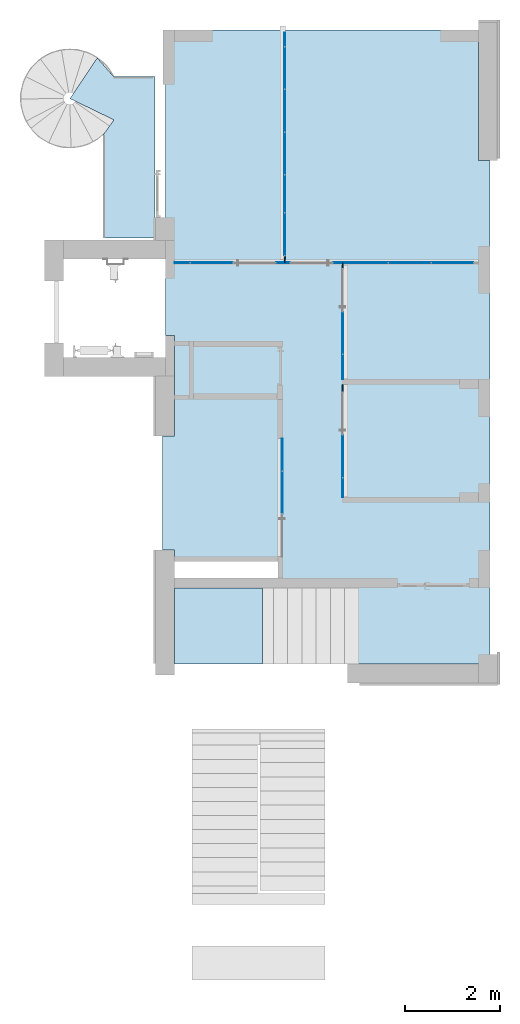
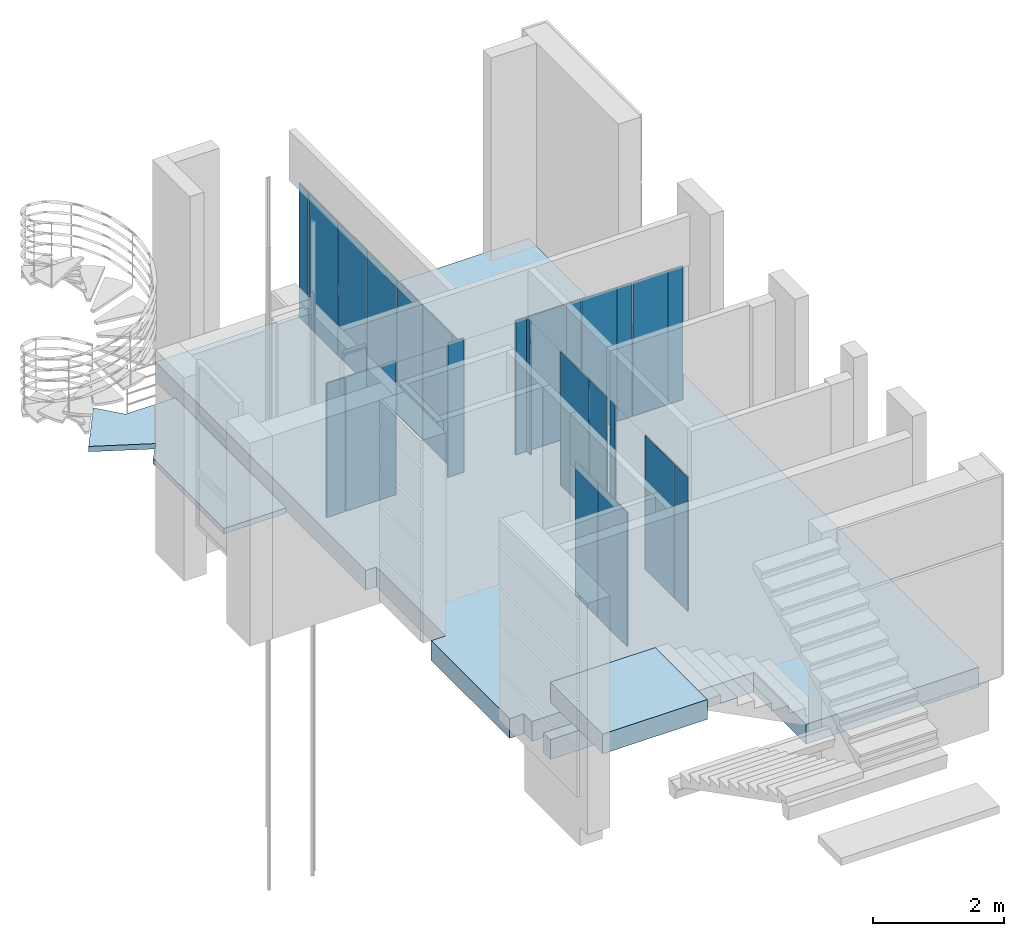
# One storey, part 4 of 14: 24 plates, 3 slabs, 5 elements without a shape of their own.
"""IFC2X3 building model written with IfcOpenShell, lengths in millimetres."""

from ifc_helpers import new_model, entity, si_unit, converted_unit, derived_unit, direction, frame, frame_2d, origin, origin_2d_with_axis, place, context, subcontext, project, spatial, polyline, rectangle, outline, extrude, source, transform, mapped, material, layer, layer_set, layer_usage, type_object, type_shapes, element, aggregate, save


model = new_model("IFC2X3")

# Units and contexts
model_context = context("Model", 3, precision=0.01, world=origin(), true_north=direction((6.12303176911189e-17, 1.0)))
body_context = subcontext(model_context, "Body", "Model", "MODEL_VIEW")
ifc_project = project(units=[si_unit("LENGTHUNIT", "METRE", prefix="MILLI"), si_unit("AREAUNIT", "SQUARE_METRE"), si_unit("VOLUMEUNIT", "CUBIC_METRE"), converted_unit("PLANEANGLEUNIT", "DEGREE", entity("IfcRatioMeasure", 0.0174532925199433), si_unit("PLANEANGLEUNIT", "RADIAN"), dimensions=[0, 0, 0, 0, 0, 0, 0]), si_unit("MASSUNIT", "GRAM", prefix="KILO"), derived_unit("MASSDENSITYUNIT", [(si_unit("MASSUNIT", "GRAM", prefix="KILO"), 1), (si_unit("LENGTHUNIT", "METRE"), -3)]), si_unit("TIMEUNIT", "SECOND"), si_unit("FREQUENCYUNIT", "HERTZ"), si_unit("THERMODYNAMICTEMPERATUREUNIT", "DEGREE_CELSIUS"), derived_unit("THERMALTRANSMITTANCEUNIT", [(si_unit("MASSUNIT", "GRAM", prefix="KILO"), 1), (si_unit("THERMODYNAMICTEMPERATUREUNIT", "KELVIN"), -1), (si_unit("TIMEUNIT", "SECOND"), -3)]), derived_unit("VOLUMETRICFLOWRATEUNIT", [(si_unit("LENGTHUNIT", "METRE"), 3), (si_unit("TIMEUNIT", "SECOND"), -1)]), si_unit("ELECTRICCURRENTUNIT", "AMPERE"), si_unit("ELECTRICVOLTAGEUNIT", "VOLT"), si_unit("POWERUNIT", "WATT"), si_unit("FORCEUNIT", "NEWTON", prefix="KILO"), si_unit("ILLUMINANCEUNIT", "LUX"), si_unit("LUMINOUSFLUXUNIT", "LUMEN"), si_unit("LUMINOUSINTENSITYUNIT", "CANDELA"), derived_unit("USERDEFINED", [(si_unit("MASSUNIT", "GRAM", prefix="KILO"), -1), (si_unit("LENGTHUNIT", "METRE"), -2), (si_unit("TIMEUNIT", "SECOND"), 3), (si_unit("LUMINOUSFLUXUNIT", "LUMEN"), 1)]), derived_unit("LINEARVELOCITYUNIT", [(si_unit("LENGTHUNIT", "METRE"), 1), (si_unit("TIMEUNIT", "SECOND"), -1)]), si_unit("PRESSUREUNIT", "PASCAL"), derived_unit("USERDEFINED", [(si_unit("LENGTHUNIT", "METRE"), -2), (si_unit("MASSUNIT", "GRAM", prefix="KILO"), 1), (si_unit("TIMEUNIT", "SECOND"), -2)])], contexts=[model_context])

# Site, building, storey
site_placement = place(None, frame((-151.875543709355, 2715.0, 0.0)))
site = spatial("IfcSite", under=ifc_project, at=site_placement, Name="Surface", CompositionType="ELEMENT")
building_placement = place(site_placement, origin())
building = spatial("IfcBuilding", under=site, at=building_placement, CompositionType="ELEMENT")
storey_placement = place(building_placement, frame((0.0, 0.0, 3875.0)))
storey = spatial("IfcBuildingStorey", under=building, at=storey_placement, Name="uus 2 korrus", CompositionType="ELEMENT", Elevation=3875.00000000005)

# Curtain wall, plates
curtain_wall_type_1 = type_object("IfcCurtainWallType", Name="Curtain Wall:Klaassein KLS-15", PredefinedType="NOTDEFINED")
curtain_wall_1_placement = place(storey_placement, frame((0.0, 0.0, -3875.0)))
curtain_wall_1 = element("IfcCurtainWall", 1, at=curtain_wall_1_placement, inside=storey, type_object=curtain_wall_type_1, Name="Curtain Wall:Klaassein KLS-15", ObjectType="Curtain Wall:Klaassein KLS-15")
ifc_material_1 = material(Name="<Unnamed>")
ifc_layer_1 = layer(ifc_material_1, 20.0)
ifc_layer_set_1 = layer_set([ifc_layer_1], Name="Curtain Wall:Klaassein KLS-01")
ifc_layer_usage_1 = layer_usage(ifc_layer_set_1, "AXIS3", "POSITIVE", 0.0)
plate_type_1 = type_object("IfcPlateType", Name="Glazed", PredefinedType="CURTAIN_PANEL", material=ifc_layer_set_1)
shared_shape_1 = source(origin(), body_context, "Body", "SweptSolid", [
    extrude(rectangle(XDim=20.0, YDim=319.699929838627, at=origin_2d_with_axis()), frame((0.0, 0.0, 0.0), z_axis=(0.0, 0.0, 1.0), x_axis=(0.0, 1.0, 0.0)), (0.0, 0.0, 1.0), 2500.00000000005),
])
type_shapes(plate_type_1, [shared_shape_1])
plate_1_placement = place(curtain_wall_1_placement, frame((32161.4662331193, 21659.9585633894, 3875.0)))
plate_1 = element("IfcPlate", 2, at=plate_1_placement, type_object=plate_type_1, material=ifc_layer_usage_1, Name="System Panel:Glazed", ObjectType="Glazed", context=body_context, shape_type="MappedRepresentation", body=[
    mapped(shared_shape_1, transform((0.0, 0.0, 0.0), scale=1.0)),
])
ifc_layer_usage_2 = layer_usage(ifc_layer_set_1, "AXIS3", "POSITIVE", 0.0)
plate_type_2 = type_object("IfcPlateType", Name="Glazed", PredefinedType="CURTAIN_PANEL", material=ifc_layer_set_1)
shared_shape_2 = source(origin(), body_context, "Body", "SweptSolid", [
    extrude(rectangle(XDim=20.0, YDim=879.999999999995, at=origin_2d_with_axis()), frame((0.0, 0.0, 0.0), z_axis=(0.0, 0.0, 1.0), x_axis=(0.0, 1.0, 0.0)), (0.0, 0.0, 1.0), 2500.00000000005),
])
type_shapes(plate_type_2, [shared_shape_2])
plate_2_placement = place(curtain_wall_1_placement, frame((32781.3161980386, 21659.9585633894, 3875.0)))
plate_2 = element("IfcPlate", 3, at=plate_2_placement, type_object=plate_type_2, material=ifc_layer_usage_2, Name="System Panel:Glazed", ObjectType="Glazed", context=body_context, shape_type="MappedRepresentation", body=[
    mapped(shared_shape_2, transform((0.0, 0.0, 0.0), scale=1.0)),
])

curtain_wall_type_2 = type_object("IfcCurtainWallType", Name="Curtain Wall:Klaassein KLS-16", PredefinedType="NOTDEFINED")
curtain_wall_2_placement = place(storey_placement, frame((0.0, 0.0, -3875.0)))
curtain_wall_2 = element("IfcCurtainWall", 4, at=curtain_wall_2_placement, inside=storey, type_object=curtain_wall_type_2, Name="Curtain Wall:Klaassein KLS-16", ObjectType="Curtain Wall:Klaassein KLS-16")
ifc_layer_usage_3 = layer_usage(ifc_layer_set_1, "AXIS3", "POSITIVE", 0.0)
plate_3_placement = place(curtain_wall_2_placement, frame((34321.3161980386, 25760.0, 3875.0), z_axis=(0.0, 0.0, 1.0), x_axis=(0.0, -1.0, 0.0)))
plate_3 = element("IfcPlate", 5, at=plate_3_placement, type_object=plate_type_2, material=ifc_layer_usage_3, Name="System Panel:Glazed", ObjectType="Glazed", context=body_context, shape_type="MappedRepresentation", body=[
    mapped(shared_shape_2, transform((0.0, 0.0, 0.0), scale=1.0)),
])
ifc_layer_usage_4 = layer_usage(ifc_layer_set_1, "AXIS3", "POSITIVE", 0.0)
plate_4_placement = place(curtain_wall_2_placement, frame((34321.3161980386, 24860.0, 3875.0), z_axis=(0.0, 0.0, 1.0), x_axis=(0.0, -1.0, 0.0)))
plate_4 = element("IfcPlate", 6, at=plate_4_placement, type_object=plate_type_2, material=ifc_layer_usage_4, Name="System Panel:Glazed", ObjectType="Glazed", context=body_context, shape_type="MappedRepresentation", body=[
    mapped(shared_shape_2, transform((0.0, 0.0, 0.0), scale=1.0)),
])
ifc_layer_usage_5 = layer_usage(ifc_layer_set_1, "AXIS3", "POSITIVE", 0.0)
plate_5_placement = place(curtain_wall_2_placement, frame((34321.3161980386, 23960.0, 3875.0), z_axis=(0.0, 0.0, 1.0), x_axis=(0.0, -1.0, 0.0)))
plate_5 = element("IfcPlate", 7, at=plate_5_placement, type_object=plate_type_2, material=ifc_layer_usage_5, Name="System Panel:Glazed", ObjectType="Glazed", context=body_context, shape_type="MappedRepresentation", body=[
    mapped(shared_shape_2, transform((0.0, 0.0, 0.0), scale=1.0)),
])
ifc_layer_usage_6 = layer_usage(ifc_layer_set_1, "AXIS3", "POSITIVE", 0.0)
plate_6_placement = place(curtain_wall_2_placement, frame((34321.3161980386, 22260.0, 3875.0), z_axis=(0.0, 0.0, 1.0), x_axis=(0.0, -1.0, 0.0)))
plate_6 = element("IfcPlate", 8, at=plate_6_placement, type_object=plate_type_2, material=ifc_layer_usage_6, Name="System Panel:Glazed", ObjectType="Glazed", context=body_context, shape_type="MappedRepresentation", body=[
    mapped(shared_shape_2, transform((0.0, 0.0, 0.0), scale=1.0)),
])

# Curtain wall, plate
curtain_wall_type_3 = type_object("IfcCurtainWallType", Name="Curtain Wall:Klaassein KLS-14", PredefinedType="NOTDEFINED")
curtain_wall_3_placement = place(storey_placement, frame((0.0, 0.0, -3875.0)))
curtain_wall_3 = element("IfcCurtainWall", 9, at=curtain_wall_3_placement, inside=storey, type_object=curtain_wall_type_3, Name="Curtain Wall:Klaassein KLS-14", ObjectType="Curtain Wall:Klaassein KLS-14")
ifc_layer_usage_7 = layer_usage(ifc_layer_set_1, "AXIS3", "POSITIVE", 0.0)
plate_7_placement = place(curtain_wall_3_placement, frame((35541.6162681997, 20180.2792834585, 3875.0), z_axis=(0.0, 0.0, 1.0), x_axis=(0.0, -1.0, 0.0)))
plate_7 = element("IfcPlate", 10, at=plate_7_placement, type_object=plate_type_2, material=ifc_layer_usage_7, Name="System Panel:Glazed", ObjectType="Glazed", context=body_context, shape_type="MappedRepresentation", body=[
    mapped(shared_shape_2, transform((0.0, 0.0, 0.0), scale=1.0)),
])

curtain_wall_type_4 = type_object("IfcCurtainWallType", Name="Curtain Wall:Klaassein KLS-13", PredefinedType="NOTDEFINED")
curtain_wall_4_placement = place(storey_placement, frame((0.0, 0.0, -3875.0)))
curtain_wall_4 = element("IfcCurtainWall", 11, at=curtain_wall_4_placement, inside=storey, type_object=curtain_wall_type_4, Name="Curtain Wall:Klaassein KLS-13", ObjectType="Curtain Wall:Klaassein KLS-13")
ifc_layer_usage_8 = layer_usage(ifc_layer_set_1, "AXIS3", "POSITIVE", 0.0)
plate_8_placement = place(curtain_wall_4_placement, frame((35540.8324752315, 17584.0897464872, 3875.0), z_axis=(0.0, 0.0, 1.0), x_axis=(0.0, -1.0, 0.0)))
plate_8 = element("IfcPlate", 12, at=plate_8_placement, type_object=plate_type_2, material=ifc_layer_usage_8, Name="System Panel:Glazed", ObjectType="Glazed", context=body_context, shape_type="MappedRepresentation", body=[
    mapped(shared_shape_2, transform((0.0, 0.0, 0.0), scale=1.0)),
])

# Plate
ifc_layer_usage_9 = layer_usage(ifc_layer_set_1, "AXIS3", "POSITIVE", 0.0)
plate_type_3 = type_object("IfcPlateType", Name="Glazed", PredefinedType="CURTAIN_PANEL", material=ifc_layer_set_1)
shared_shape_3 = source(origin(), body_context, "Body", "SweptSolid", [
    extrude(rectangle(XDim=20.0, YDim=279.999999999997, at=origin_2d_with_axis()), frame((0.0, 0.0, 0.0), z_axis=(0.0, 0.0, 1.0), x_axis=(0.0, 1.0, 0.0)), (0.0, 0.0, 1.0), 2500.00000000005),
])
type_shapes(plate_type_3, [shared_shape_3])
plate_9_placement = place(curtain_wall_1_placement, frame((34281.3161980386, 21659.9585633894, 3875.0)))
plate_9 = element("IfcPlate", 13, at=plate_9_placement, type_object=plate_type_3, material=ifc_layer_usage_9, Name="System Panel:Glazed", ObjectType="Glazed", context=body_context, shape_type="MappedRepresentation", body=[
    mapped(shared_shape_3, transform((0.0, 0.0, 0.0), scale=1.0)),
])

ifc_layer_usage_10 = layer_usage(ifc_layer_set_1, "AXIS3", "POSITIVE", 0.0)
plate_type_4 = type_object("IfcPlateType", Name="Glazed", PredefinedType="CURTAIN_PANEL", material=ifc_layer_set_1)
shared_shape_4 = source(origin(), body_context, "Body", "SweptSolid", [
    extrude(rectangle(XDim=20.0, YDim=889.999999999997, at=origin_2d_with_axis()), frame((0.0, 0.0, 0.0), z_axis=(0.0, 0.0, 1.0), x_axis=(0.0, 1.0, 0.0)), (0.0, 0.0, 1.0), 2500.00000000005),
])
type_shapes(plate_type_4, [shared_shape_4])
plate_10_placement = place(curtain_wall_1_placement, frame((35786.3161980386, 21659.9585633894, 3875.0)))
plate_10 = element("IfcPlate", 14, at=plate_10_placement, type_object=plate_type_4, material=ifc_layer_usage_10, Name="System Panel:Glazed", ObjectType="Glazed", context=body_context, shape_type="MappedRepresentation", body=[
    mapped(shared_shape_4, transform((0.0, 0.0, 0.0), scale=1.0)),
])

ifc_layer_usage_11 = layer_usage(ifc_layer_set_1, "AXIS3", "POSITIVE", 0.0)
plate_type_5 = type_object("IfcPlateType", Name="Glazed", PredefinedType="CURTAIN_PANEL", material=ifc_layer_set_1)
shared_shape_5 = source(origin(), body_context, "Body", "SweptSolid", [
    extrude(rectangle(XDim=20.0, YDim=260.300070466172, at=origin_2d_with_axis()), frame((0.0, 0.0, 0.0), z_axis=(0.0, 0.0, 1.0), x_axis=(0.0, 1.0, 0.0)), (0.0, 0.0, 1.0), 2500.00000000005),
])
type_shapes(plate_type_5, [shared_shape_5])
plate_11_placement = place(curtain_wall_1_placement, frame((36361.4662332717, 21659.9585633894, 3875.0)))
plate_11 = element("IfcPlate", 15, at=plate_11_placement, type_object=plate_type_5, material=ifc_layer_usage_11, Name="System Panel:Glazed", ObjectType="Glazed", context=body_context, shape_type="MappedRepresentation", body=[
    mapped(shared_shape_5, transform((0.0, 0.0, 0.0), scale=1.0)),
])

ifc_layer_usage_12 = layer_usage(ifc_layer_set_1, "AXIS3", "POSITIVE", 0.0)
plate_12_placement = place(curtain_wall_1_placement, frame((37261.4662332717, 21659.9585633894, 3875.0)))
plate_12 = element("IfcPlate", 16, at=plate_12_placement, type_object=plate_type_5, material=ifc_layer_usage_12, Name="System Panel:Glazed", ObjectType="Glazed", context=body_context, shape_type="MappedRepresentation", body=[
    mapped(shared_shape_5, transform((0.0, 0.0, 0.0), scale=1.0)),
])

ifc_layer_usage_13 = layer_usage(ifc_layer_set_1, "AXIS3", "POSITIVE", 0.0)
plate_13_placement = place(curtain_wall_1_placement, frame((38161.4662332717, 21659.9585633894, 3875.0)))
plate_13 = element("IfcPlate", 17, at=plate_13_placement, type_object=plate_type_5, material=ifc_layer_usage_13, Name="System Panel:Glazed", ObjectType="Glazed", context=body_context, shape_type="MappedRepresentation", body=[
    mapped(shared_shape_5, transform((0.0, 0.0, 0.0), scale=1.0)),
])

ifc_layer_usage_14 = layer_usage(ifc_layer_set_1, "AXIS3", "POSITIVE", 0.0)
plate_type_6 = type_object("IfcPlateType", Name="Glazed", PredefinedType="CURTAIN_PANEL", material=ifc_layer_set_1)
shared_shape_6 = source(origin(), body_context, "Body", "SweptSolid", [
    extrude(rectangle(XDim=20.0, YDim=619.699929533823, at=origin_2d_with_axis()), frame((0.0, 0.0, 0.0), z_axis=(0.0, 0.0, 1.0), x_axis=(0.0, 1.0, 0.0)), (0.0, 0.0, 1.0), 2500.00000000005),
])
type_shapes(plate_type_6, [shared_shape_6])
plate_14_placement = place(curtain_wall_1_placement, frame((36821.4662332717, 21659.9585633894, 3875.0)))
plate_14 = element("IfcPlate", 18, at=plate_14_placement, type_object=plate_type_6, material=ifc_layer_usage_14, Name="System Panel:Glazed", ObjectType="Glazed", context=body_context, shape_type="MappedRepresentation", body=[
    mapped(shared_shape_6, transform((0.0, 0.0, 0.0), scale=1.0)),
])

ifc_layer_usage_15 = layer_usage(ifc_layer_set_1, "AXIS3", "POSITIVE", 0.0)
plate_15_placement = place(curtain_wall_1_placement, frame((37721.4662332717, 21659.9585633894, 3875.0)))
plate_15 = element("IfcPlate", 19, at=plate_15_placement, type_object=plate_type_6, material=ifc_layer_usage_15, Name="System Panel:Glazed", ObjectType="Glazed", context=body_context, shape_type="MappedRepresentation", body=[
    mapped(shared_shape_6, transform((0.0, 0.0, 0.0), scale=1.0)),
])

aggregate(curtain_wall_1, [plate_1, plate_2, plate_9, plate_10, plate_11, plate_14, plate_12, plate_15, plate_13])

ifc_layer_usage_16 = layer_usage(ifc_layer_set_1, "AXIS3", "POSITIVE", 0.0)
plate_type_7 = type_object("IfcPlateType", Name="Glazed", PredefinedType="CURTAIN_PANEL", material=ifc_layer_set_1)
shared_shape_7 = source(origin(), body_context, "Body", "SweptSolid", [
    extrude(rectangle(XDim=20.0, YDim=281.000026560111, at=origin_2d_with_axis()), frame((0.0, 0.0, 0.0), z_axis=(0.0, 0.0, 1.0), x_axis=(0.0, 1.0, 0.0)), (0.0, 0.0, 1.0), 2500.00000000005),
])
type_shapes(plate_type_7, [shared_shape_7])
plate_16_placement = place(curtain_wall_2_placement, frame((34321.3161980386, 26360.50001328, 3875.0), z_axis=(0.0, 0.0, 1.0), x_axis=(0.0, -1.0, 0.0)))
plate_16 = element("IfcPlate", 20, at=plate_16_placement, type_object=plate_type_7, material=ifc_layer_usage_16, Name="System Panel:Glazed", ObjectType="Glazed", context=body_context, shape_type="MappedRepresentation", body=[
    mapped(shared_shape_7, transform((0.0, 0.0, 0.0), scale=1.0)),
])

ifc_layer_usage_17 = layer_usage(ifc_layer_set_1, "AXIS3", "POSITIVE", 0.0)
plate_type_8 = type_object("IfcPlateType", Name="Glazed", PredefinedType="CURTAIN_PANEL", material=ifc_layer_set_1)
shared_shape_8 = source(origin(), body_context, "Body", "SweptSolid", [
    extrude(rectangle(XDim=20.0, YDim=779.999999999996, at=origin_2d_with_axis()), frame((0.0, 0.0, 0.0), z_axis=(0.0, 0.0, 1.0), x_axis=(0.0, 1.0, 0.0)), (0.0, 0.0, 1.0), 2500.00000000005),
])
type_shapes(plate_type_8, [shared_shape_8])
plate_17_placement = place(curtain_wall_2_placement, frame((34321.3161980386, 23110.0, 3875.0), z_axis=(0.0, 0.0, 1.0), x_axis=(0.0, -1.0, 0.0)))
plate_17 = element("IfcPlate", 21, at=plate_17_placement, type_object=plate_type_8, material=ifc_layer_usage_17, Name="System Panel:Glazed", ObjectType="Glazed", context=body_context, shape_type="MappedRepresentation", body=[
    mapped(shared_shape_8, transform((0.0, 0.0, 0.0), scale=1.0)),
])

ifc_layer_usage_18 = layer_usage(ifc_layer_set_1, "AXIS3", "POSITIVE", 0.0)
plate_type_9 = type_object("IfcPlateType", Name="Glazed", PredefinedType="CURTAIN_PANEL", material=ifc_layer_set_1)
shared_shape_9 = source(origin(), body_context, "Body", "SweptSolid", [
    extrude(rectangle(XDim=20.0, YDim=140.04143661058, at=origin_2d_with_axis()), frame((0.0, 0.0, 0.0), z_axis=(0.0, 0.0, 1.0), x_axis=(0.0, 1.0, 0.0)), (0.0, 0.0, 1.0), 2500.00000000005),
])
type_shapes(plate_type_9, [shared_shape_9])
plate_18_placement = place(curtain_wall_2_placement, frame((34321.3161980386, 21729.9792816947, 3875.0), z_axis=(0.0, 0.0, 1.0), x_axis=(0.0, -1.0, 0.0)))
plate_18 = element("IfcPlate", 22, at=plate_18_placement, type_object=plate_type_9, material=ifc_layer_usage_18, Name="System Panel:Glazed", ObjectType="Glazed", context=body_context, shape_type="MappedRepresentation", body=[
    mapped(shared_shape_9, transform((0.0, 0.0, 0.0), scale=1.0)),
])

aggregate(curtain_wall_2, [plate_16, plate_3, plate_4, plate_5, plate_17, plate_6, plate_18])

ifc_layer_usage_19 = layer_usage(ifc_layer_set_1, "AXIS3", "POSITIVE", 0.0)
plate_type_10 = type_object("IfcPlateType", Name="Glazed", PredefinedType="CURTAIN_PANEL", material=ifc_layer_set_1)
shared_shape_10 = source(origin(), body_context, "Body", "SweptSolid", [
    extrude(rectangle(XDim=20.0, YDim=119.679279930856, at=origin_2d_with_axis()), frame((0.0, 0.0, 0.0), z_axis=(0.0, 0.0, 1.0), x_axis=(0.0, 1.0, 0.0)), (0.0, 0.0, 1.0), 2500.00000000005),
])
type_shapes(plate_type_10, [shared_shape_10])
plate_19_placement = place(curtain_wall_3_placement, frame((35541.6162681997, 21600.1189234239, 3875.0), z_axis=(0.0, 0.0, 1.0), x_axis=(0.0, -1.0, 0.0)))
plate_19 = element("IfcPlate", 23, at=plate_19_placement, type_object=plate_type_10, material=ifc_layer_usage_19, Name="System Panel:Glazed", ObjectType="Glazed", context=body_context, shape_type="MappedRepresentation", body=[
    mapped(shared_shape_10, transform((0.0, 0.0, 0.0), scale=1.0)),
])

ifc_layer_usage_20 = layer_usage(ifc_layer_set_1, "AXIS3", "POSITIVE", 0.0)
plate_type_11 = type_object("IfcPlateType", Name="Glazed", PredefinedType="CURTAIN_PANEL", material=ifc_layer_set_1)
shared_shape_11 = source(origin(), body_context, "Body", "SweptSolid", [
    extrude(rectangle(XDim=20.0, YDim=510.189536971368, at=origin_2d_with_axis()), frame((0.0, 0.0, 0.0), z_axis=(0.0, 0.0, 1.0), x_axis=(0.0, 1.0, 0.0)), (0.0, 0.0, 1.0), 2500.00000000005),
])
type_shapes(plate_type_11, [shared_shape_11])
plate_20_placement = place(curtain_wall_3_placement, frame((35541.6162681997, 19465.1845149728, 3875.0), z_axis=(0.0, 0.0, 1.0), x_axis=(0.0, -1.0, 0.0)))
plate_20 = element("IfcPlate", 24, at=plate_20_placement, type_object=plate_type_11, material=ifc_layer_usage_20, Name="System Panel:Glazed", ObjectType="Glazed", context=body_context, shape_type="MappedRepresentation", body=[
    mapped(shared_shape_11, transform((0.0, 0.0, 0.0), scale=1.0)),
])

aggregate(curtain_wall_3, [plate_19, plate_7, plate_20])

ifc_layer_usage_21 = layer_usage(ifc_layer_set_1, "AXIS3", "POSITIVE", 0.0)
plate_type_12 = type_object("IfcPlateType", Name="Glazed", PredefinedType="CURTAIN_PANEL", material=ifc_layer_set_1)
shared_shape_12 = source(origin(), body_context, "Body", "SweptSolid", [
    extrude(rectangle(XDim=20.0, YDim=149.999999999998, at=origin_2d_with_axis()), frame((0.0, 0.0, 0.0), z_axis=(0.0, 0.0, 1.0), x_axis=(0.0, 1.0, 0.0)), (0.0, 0.0, 1.0), 2500.0),
])
type_shapes(plate_type_12, [shared_shape_12])
plate_21_placement = place(curtain_wall_4_placement, frame((35540.8324752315, 19019.0897464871, 3875.0), z_axis=(0.0, 0.0, 1.0), x_axis=(0.0, -1.0, 0.0)))
plate_21 = element("IfcPlate", 25, at=plate_21_placement, type_object=plate_type_12, material=ifc_layer_usage_21, Name="System Panel:Glazed", ObjectType="Glazed", context=body_context, shape_type="MappedRepresentation", body=[
    mapped(shared_shape_12, transform((0.0, 0.0, 0.0), scale=1.0)),
])

ifc_layer_usage_22 = layer_usage(ifc_layer_set_1, "AXIS3", "POSITIVE", 0.0)
plate_type_13 = type_object("IfcPlateType", Name="Glazed", PredefinedType="CURTAIN_PANEL", material=ifc_layer_set_1)
shared_shape_13 = source(origin(), body_context, "Body", "SweptSolid", [
    extrude(rectangle(XDim=20.0, YDim=398.044873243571, at=origin_2d_with_axis()), frame((0.0, 0.0, 0.0), z_axis=(0.0, 0.0, 1.0), x_axis=(0.0, 1.0, 0.0)), (0.0, 0.0, 1.0), 2500.0),
])
type_shapes(plate_type_13, [shared_shape_13])
plate_22_placement = place(curtain_wall_4_placement, frame((35540.8324752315, 16925.0673098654, 3875.0), z_axis=(0.0, 0.0, 1.0), x_axis=(0.0, -1.0, 0.0)))
plate_22 = element("IfcPlate", 26, at=plate_22_placement, type_object=plate_type_13, material=ifc_layer_usage_22, Name="System Panel:Glazed", ObjectType="Glazed", context=body_context, shape_type="MappedRepresentation", body=[
    mapped(shared_shape_13, transform((0.0, 0.0, 0.0), scale=1.0)),
])

aggregate(curtain_wall_4, [plate_21, plate_8, plate_22])

# Curtain wall, plates
curtain_wall_type_5 = type_object("IfcCurtainWallType", Name="Curtain Wall:Klaassein KLS-12", PredefinedType="NOTDEFINED")
curtain_wall_5_placement = place(storey_placement, frame((0.0, 0.0, -3875.0)))
curtain_wall_5 = element("IfcCurtainWall", 27, at=curtain_wall_5_placement, inside=storey, type_object=curtain_wall_type_5, Name="Curtain Wall:Klaassein KLS-12", ObjectType="Curtain Wall:Klaassein KLS-12")
ifc_layer_usage_23 = layer_usage(ifc_layer_set_1, "AXIS3", "POSITIVE", 0.0)
plate_type_14 = type_object("IfcPlateType", Name="Glazed", PredefinedType="CURTAIN_PANEL", material=ifc_layer_set_1)
shared_shape_14 = source(origin(), body_context, "Body", "SweptSolid", [
    extrude(rectangle(XDim=20.0, YDim=879.999999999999, at=origin_2d_with_axis()), frame((0.0, 0.0, 0.0), z_axis=(0.0, 0.0, 1.0), x_axis=(0.0, 1.0, 0.0)), (0.0, 0.0, 1.0), 2500.00000000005),
])
type_shapes(plate_type_14, [shared_shape_14])
plate_23_placement = place(curtain_wall_5_placement, frame((34270.014162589, 16820.0, 3875.0), z_axis=(0.0, 0.0, 1.0), x_axis=(0.0, 1.0, 0.0)))
plate_23 = element("IfcPlate", 28, at=plate_23_placement, type_object=plate_type_14, material=ifc_layer_usage_23, Name="System Panel:Glazed", ObjectType="Glazed", context=body_context, shape_type="MappedRepresentation", body=[
    mapped(shared_shape_14, transform((0.0, 0.0, 0.0), scale=1.0)),
])
ifc_layer_usage_24 = layer_usage(ifc_layer_set_1, "AXIS3", "POSITIVE", 0.0)
plate_type_15 = type_object("IfcPlateType", Name="Glazed", PredefinedType="CURTAIN_PANEL", material=ifc_layer_set_1)
shared_shape_15 = source(origin(), body_context, "Body", "SweptSolid", [
    extrude(rectangle(XDim=20.0, YDim=675.0, at=origin_2d_with_axis()), frame((0.0, 0.0, 0.0), z_axis=(0.0, 0.0, 1.0), x_axis=(0.0, 1.0, 0.0)), (0.0, 0.0, 1.0), 2500.00000000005),
])
type_shapes(plate_type_15, [shared_shape_15])
plate_24_placement = place(curtain_wall_5_placement, frame((34270.014162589, 17617.5000000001, 3875.0), z_axis=(0.0, 0.0, 1.0), x_axis=(0.0, 1.0, 0.0)))
plate_24 = element("IfcPlate", 29, at=plate_24_placement, type_object=plate_type_15, material=ifc_layer_usage_24, Name="System Panel:Glazed", ObjectType="Glazed", context=body_context, shape_type="MappedRepresentation", body=[
    mapped(shared_shape_15, transform((0.0, 0.0, 0.0), scale=1.0)),
])
aggregate(curtain_wall_5, [plate_23, plate_24])

# Slabs
ifc_material_2 = material(Name="Viimistlus")
ifc_layer_2 = layer(ifc_material_2, 20.0)
ifc_material_3 = material(Name="Betoon")
ifc_layer_3 = layer(ifc_material_3, 80.0)
ifc_material_4 = material(Name="Helisummutusvill")
ifc_layer_4 = layer(ifc_material_4, 50.0)
ifc_material_5 = material(Name="Betoon paneel")
ifc_layer_5 = layer(ifc_material_5, 220.0)
ifc_layer_set_2 = layer_set([ifc_layer_2, ifc_layer_3, ifc_layer_4, ifc_layer_5], Name="Floor:VL-2.1_vahelagi juurdeehitusel")
ifc_layer_usage_25 = layer_usage(ifc_layer_set_2, "AXIS3", "POSITIVE", 0.0)
slab_1_placement = place(storey_placement, origin())
element("IfcSlab", 30, at=slab_1_placement, inside=storey, material=ifc_layer_usage_25, Name="Floor:VL-2.1_vahelagi juurdeehitusel", ObjectType="Floor:VL-2.1_vahelagi juurdeehitusel", PredefinedType="FLOOR", context=body_context, shape_type="SweptSolid", body=[
    extrude(outline(polyline([(-2448.66163530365, -2297.0), (-48.7073742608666, -2297.0), (-48.7073742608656, -2040.0), (2071.33836486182, -2040.0), (2071.33836486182, -2230.0), (8499.33836469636, -2230.0), (8499.33836469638, 4355.0), (5751.33882122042, 4355.0), (5751.33882122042, 4602.0), (-4848.66163530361, 4602.0), (-4848.66163530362, 1550.0), (-3248.66163530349, 1550.0), (-3248.66163530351, -2040.0), (-3038.6616353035, -2040.0), (-3038.66163530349, 140.0), (-2688.66163530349, 140.0), (-2688.66163530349, -2040.0), (-2448.66163530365, -2040.0), (-2448.66163530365, -2297.0)])), frame((34041.6162682, 18058.6616353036, 0.0), z_axis=(0.0, 0.0, -1.0), x_axis=(0.0, 1.0, 0.0)), (0.0, 0.0, 1.0), 370.0),
])
ifc_layer_usage_26 = layer_usage(ifc_layer_set_2, "AXIS3", "POSITIVE", 0.0)
slab_2_placement = place(storey_placement, origin())
element("IfcSlab", 31, at=slab_2_placement, inside=storey, material=ifc_layer_usage_26, Name="Floor:VL-2.1_vahelagi juurdeehitusel", ObjectType="Floor:VL-2.1_vahelagi juurdeehitusel", PredefinedType="FLOOR", context=body_context, shape_type="SweptSolid", body=[
    extrude(rectangle(XDim=1600.00000000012, YDim=1849.99999999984, at=frame_2d((-1.08002495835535e-12, 0.0), x_axis=(1.0, 0.0))), frame((32926.6162681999, 14010.0, 1075.0), z_axis=(0.0, 0.0, -1.0), x_axis=(0.0, 1.0, 0.0)), (0.0, 0.0, 1.0), 370.0),
])
ifc_layer_6 = layer(ifc_material_3, 100.0)
ifc_layer_set_3 = layer_set([ifc_layer_6], Name="Floor:Betoontasand 2")
ifc_layer_usage_27 = layer_usage(ifc_layer_set_3, "AXIS3", "POSITIVE", 0.0)
slab_3_placement = place(storey_placement, origin())
element("IfcSlab", 32, at=slab_3_placement, inside=storey, material=ifc_layer_usage_27, Name="Floor:Betoontasand 2", ObjectType="Floor:Betoontasand 2", PredefinedType="FLOOR", context=body_context, shape_type="SweptSolid", body=[
    extrude(outline(polyline([(-869.857727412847, -2268.23929735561), (230.142272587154, -2268.23929735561), (230.142272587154, -108.541695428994), (-1.14973630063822, 213.953334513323), (926.234236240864, 661.811021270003), (349.182119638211, 1517.77617540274), (5.16429007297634, 1125.73987947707), (-869.857727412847, 1125.73987947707), (-869.857727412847, -2268.23929735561)])), frame((30722.7585407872, 24452.2392975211, 0.0), z_axis=(0.0, 0.0, -1.0), x_axis=(-1.0, 0.0, 0.0)), (0.0, 0.0, 1.0), 100.0),
])

save(model, "model.ifc")
